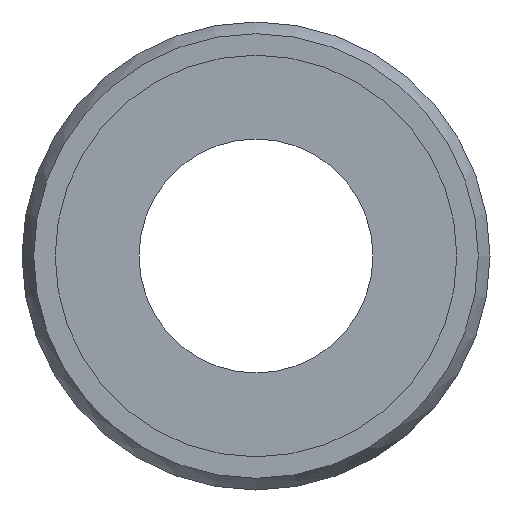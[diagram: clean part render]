
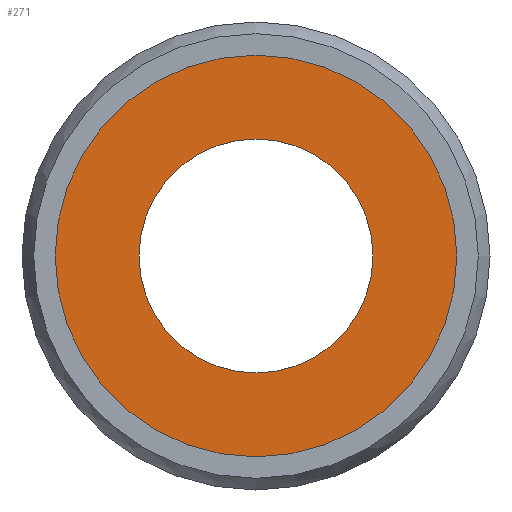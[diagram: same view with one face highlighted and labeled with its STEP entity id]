
A CAD part, left-side view. The second image highlights one B-rep face of the part: STEP entity #271.
In plain terms, the highlighted planar face has unit normal (-1, 0, 0).
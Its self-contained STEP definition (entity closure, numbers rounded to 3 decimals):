
#244=CARTESIAN_POINT('',(0.1,0.0,4.075));
#245=DIRECTION('',(-1.0,0.0,0.0));
#246=DIRECTION('',(0.0,0.0,1.0));
#247=AXIS2_PLACEMENT_3D('',#244,#245,#246);
#248=PLANE('',#247);
#249=CARTESIAN_POINT('',(0.1,0.0,5.15));
#250=VERTEX_POINT('',#249);
#251=CARTESIAN_POINT('',(0.1,0.0,0.));
#252=DIRECTION('',(1.0,0.0,0.0));
#253=DIRECTION('',(0.0,0.0,1.0));
#254=AXIS2_PLACEMENT_3D('',#251,#252,#253);
#255=CIRCLE('',#254,5.15);
#256=EDGE_CURVE('',#250,#250,#255,.T.);
#257=ORIENTED_EDGE('',*,*,#256,.F.);
#258=EDGE_LOOP('',(#257));
#259=FACE_OUTER_BOUND('',#258,.T.);
#260=CARTESIAN_POINT('',(0.1,0.0,3.));
#261=VERTEX_POINT('',#260);
#262=CARTESIAN_POINT('',(0.1,0.0,0.));
#263=DIRECTION('',(-1.0,0.0,0.0));
#264=DIRECTION('',(0.0,0.0,1.0));
#265=AXIS2_PLACEMENT_3D('',#262,#263,#264);
#266=CIRCLE('',#265,3.);
#267=EDGE_CURVE('',#261,#261,#266,.T.);
#268=ORIENTED_EDGE('',*,*,#267,.F.);
#269=EDGE_LOOP('',(#268));
#270=FACE_BOUND('',#269,.T.);
#271=ADVANCED_FACE('',(#259,#270),#248,.T.);
